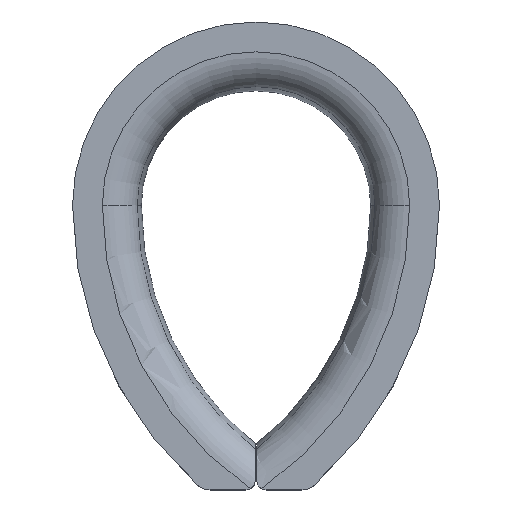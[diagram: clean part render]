
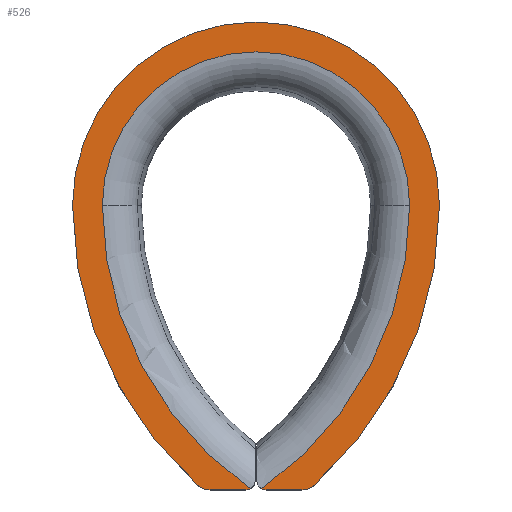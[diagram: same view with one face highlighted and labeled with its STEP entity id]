
A CAD part, top view. The second image highlights one B-rep face of the part: STEP entity #526.
In plain terms, the highlighted planar face has unit normal (0, 0, 1).
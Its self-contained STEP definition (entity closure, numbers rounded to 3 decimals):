
#27=LINE('',#913,#49);
#28=LINE('',#925,#50);
#49=VECTOR('',#675,10.);
#50=VECTOR('',#686,10.);
#71=PLANE('',#586);
#82=FACE_OUTER_BOUND('',#114,.T.);
#114=EDGE_LOOP('',(#357,#358,#359,#360,#361,#362,#363,#364,#365,#366,#367,
#368));
#143=CIRCLE('',#576,37.62);
#148=CIRCLE('',#582,16.749);
#150=CIRCLE('',#585,37.62);
#151=CIRCLE('',#587,1.);
#152=CIRCLE('',#588,2.);
#153=CIRCLE('',#589,40.871);
#154=CIRCLE('',#590,20.);
#155=CIRCLE('',#591,40.871);
#156=CIRCLE('',#592,2.);
#157=CIRCLE('',#593,1.);
#206=VERTEX_POINT('',#818);
#207=VERTEX_POINT('',#841);
#210=VERTEX_POINT('',#862);
#214=VERTEX_POINT('',#885);
#215=VERTEX_POINT('',#910);
#216=VERTEX_POINT('',#912);
#217=VERTEX_POINT('',#914);
#218=VERTEX_POINT('',#916);
#219=VERTEX_POINT('',#918);
#220=VERTEX_POINT('',#920);
#221=VERTEX_POINT('',#922);
#222=VERTEX_POINT('',#924);
#260=EDGE_CURVE('',#206,#207,#143,.T.);
#266=EDGE_CURVE('',#207,#210,#148,.T.);
#269=EDGE_CURVE('',#210,#214,#150,.T.);
#271=EDGE_CURVE('',#215,#206,#151,.T.);
#272=EDGE_CURVE('',#215,#216,#27,.T.);
#273=EDGE_CURVE('',#217,#216,#152,.T.);
#274=EDGE_CURVE('',#217,#218,#153,.T.);
#275=EDGE_CURVE('',#218,#219,#154,.T.);
#276=EDGE_CURVE('',#219,#220,#155,.T.);
#277=EDGE_CURVE('',#221,#220,#156,.T.);
#278=EDGE_CURVE('',#221,#222,#28,.T.);
#279=EDGE_CURVE('',#214,#222,#157,.T.);
#357=ORIENTED_EDGE('',*,*,#269,.F.);
#358=ORIENTED_EDGE('',*,*,#266,.F.);
#359=ORIENTED_EDGE('',*,*,#260,.F.);
#360=ORIENTED_EDGE('',*,*,#271,.F.);
#361=ORIENTED_EDGE('',*,*,#272,.T.);
#362=ORIENTED_EDGE('',*,*,#273,.F.);
#363=ORIENTED_EDGE('',*,*,#274,.T.);
#364=ORIENTED_EDGE('',*,*,#275,.T.);
#365=ORIENTED_EDGE('',*,*,#276,.T.);
#366=ORIENTED_EDGE('',*,*,#277,.F.);
#367=ORIENTED_EDGE('',*,*,#278,.T.);
#368=ORIENTED_EDGE('',*,*,#279,.F.);
#526=ADVANCED_FACE('',(#82),#71,.T.);
#576=AXIS2_PLACEMENT_3D('',#842,#651,#652);
#582=AXIS2_PLACEMENT_3D('',#866,#663,#664);
#585=AXIS2_PLACEMENT_3D('',#886,#669,#670);
#586=AXIS2_PLACEMENT_3D('',#909,#671,#672);
#587=AXIS2_PLACEMENT_3D('',#911,#673,#674);
#588=AXIS2_PLACEMENT_3D('',#915,#676,#677);
#589=AXIS2_PLACEMENT_3D('',#917,#678,#679);
#590=AXIS2_PLACEMENT_3D('',#919,#680,#681);
#591=AXIS2_PLACEMENT_3D('',#921,#682,#683);
#592=AXIS2_PLACEMENT_3D('',#923,#684,#685);
#593=AXIS2_PLACEMENT_3D('',#926,#687,#688);
#651=DIRECTION('center_axis',(0.,0.,1.));
#652=DIRECTION('ref_axis',(0.893,-0.451,0.));
#663=DIRECTION('center_axis',(0.,0.,1.));
#664=DIRECTION('ref_axis',(0.,1.,0.));
#669=DIRECTION('center_axis',(0.,0.,1.));
#670=DIRECTION('ref_axis',(-0.893,-0.451,0.));
#671=DIRECTION('center_axis',(0.,0.,1.));
#672=DIRECTION('ref_axis',(0.558,0.83,0.));
#673=DIRECTION('center_axis',(0.,0.,-1.));
#674=DIRECTION('ref_axis',(-0.707,-0.707,0.));
#675=DIRECTION('',(1.,0.,0.));
#676=DIRECTION('center_axis',(0.,0.,-1.));
#677=DIRECTION('ref_axis',(0.356,-0.934,0.));
#678=DIRECTION('center_axis',(0.,0.,1.));
#679=DIRECTION('ref_axis',(0.558,-0.83,0.));
#680=DIRECTION('center_axis',(0.,0.,1.));
#681=DIRECTION('ref_axis',(1.,0.,0.));
#682=DIRECTION('center_axis',(0.,0.,1.));
#683=DIRECTION('ref_axis',(-1.,0.,0.));
#684=DIRECTION('center_axis',(0.,0.,-1.));
#685=DIRECTION('ref_axis',(-0.356,-0.934,0.));
#686=DIRECTION('',(1.,0.,0.));
#687=DIRECTION('center_axis',(0.,0.,-1.));
#688=DIRECTION('ref_axis',(0.707,-0.707,0.));
#818=CARTESIAN_POINT('',(0.62,-30.877,5.5));
#841=CARTESIAN_POINT('',(16.749,0.,5.5));
#842=CARTESIAN_POINT('Origin',(-20.871,0.,5.5));
#862=CARTESIAN_POINT('',(-16.749,0.,5.5));
#866=CARTESIAN_POINT('Origin',(0.,0.,5.5));
#885=CARTESIAN_POINT('',(-0.62,-30.877,5.5));
#886=CARTESIAN_POINT('Origin',(20.871,0.,5.5));
#909=CARTESIAN_POINT('Origin',(14.476,0.,5.5));
#910=CARTESIAN_POINT('',(1.1,-31.,5.5));
#911=CARTESIAN_POINT('Origin',(1.1,-30.,5.5));
#912=CARTESIAN_POINT('',(5.013,-31.,5.5));
#913=CARTESIAN_POINT('',(4.356,-31.,5.5));
#914=CARTESIAN_POINT('',(6.344,-30.492,5.5));
#915=CARTESIAN_POINT('Origin',(5.013,-29.,5.5));
#916=CARTESIAN_POINT('',(20.,0.,5.5));
#917=CARTESIAN_POINT('Origin',(-20.871,0.,
5.5));
#918=CARTESIAN_POINT('',(-20.,0.,5.5));
#919=CARTESIAN_POINT('Origin',(0.,0.,5.5));
#920=CARTESIAN_POINT('',(-6.344,-30.492,5.5));
#921=CARTESIAN_POINT('Origin',(20.871,0.,5.5));
#922=CARTESIAN_POINT('',(-5.013,-31.,5.5));
#923=CARTESIAN_POINT('Origin',(-5.013,-29.,5.5));
#924=CARTESIAN_POINT('',(-1.1,-31.,5.5));
#925=CARTESIAN_POINT('',(4.356,-31.,5.5));
#926=CARTESIAN_POINT('Origin',(-1.1,-30.,5.5));
